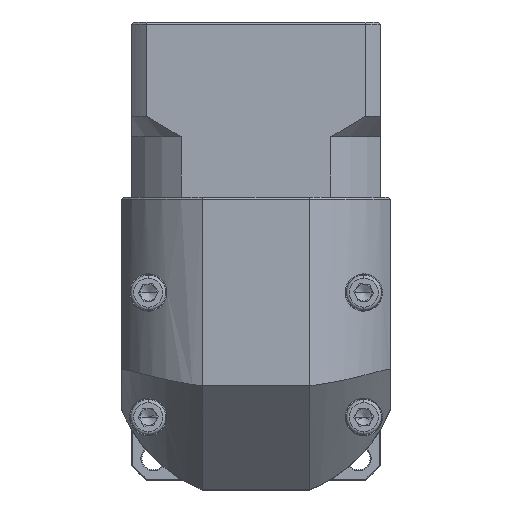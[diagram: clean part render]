
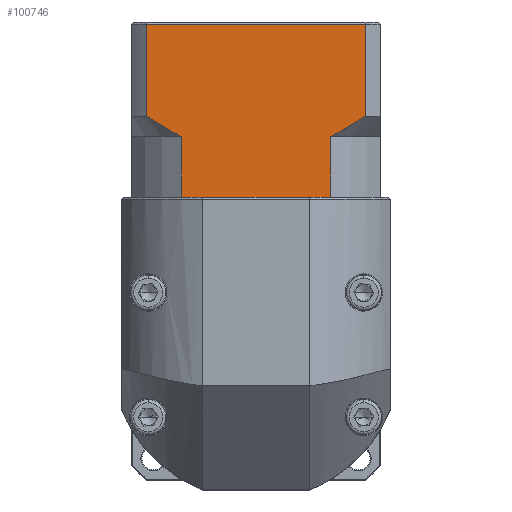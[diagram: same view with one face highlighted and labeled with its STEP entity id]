
A CAD part, top view. The second image highlights one B-rep face of the part: STEP entity #100746.
In plain terms, the highlighted planar face has unit normal (0, 0, 1).
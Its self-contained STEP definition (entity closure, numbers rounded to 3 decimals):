
#614 = VECTOR ( 'NONE', #58140, 1000. ) ;
#3505 = CARTESIAN_POINT ( 'NONE',  ( -76.952, 41.044, 46.008 ) ) ;
#4255 = CARTESIAN_POINT ( 'NONE',  ( -73.41, 55.544, 46.008 ) ) ;
#5313 = EDGE_CURVE ( 'NONE', #7495, #14558, #21952, .T. ) ;
#6507 = EDGE_CURVE ( 'NONE', #47653, #14558, #90700, .T. ) ;
#7495 = VERTEX_POINT ( 'NONE', #45702 ) ;
#8654 = DIRECTION ( 'NONE',  ( 0., 1., 0. ) ) ;
#10508 = VERTEX_POINT ( 'NONE', #38392 ) ;
#12014 = CARTESIAN_POINT ( 'NONE',  ( -64.98, 55.544, 46.008 ) ) ;
#13902 = ORIENTED_EDGE ( 'NONE', *, *, #57826, .T. ) ;
#13911 = DIRECTION ( 'NONE',  ( 0., 0., -1. ) ) ;
#14558 = VERTEX_POINT ( 'NONE', #50242 ) ;
#14918 = CARTESIAN_POINT ( 'NONE',  ( -28.924, 55.544, 46.008 ) ) ;
#15823 = VERTEX_POINT ( 'NONE', #86991 ) ;
#16475 = CARTESIAN_POINT ( 'NONE',  ( -64.98, 55.544, 46.008 ) ) ;
#17858 = VECTOR ( 'NONE', #41969, 1000. ) ;
#17923 = EDGE_CURVE ( 'NONE', #72946, #47653, #58922, .T. ) ;
#21149 = VERTEX_POINT ( 'NONE', #69451 ) ;
#21652 = CARTESIAN_POINT ( 'NONE',  ( -28.924, 55.544, 46.008 ) ) ;
#21952 = LINE ( 'NONE', #14918, #17858 ) ;
#22491 = ORIENTED_EDGE ( 'NONE', *, *, #56330, .F. ) ;
#25499 = B_SPLINE_CURVE_WITH_KNOTS ( 'NONE', 3,
 ( #62078, #87962, #34945, #53075, #96869, #61693 ),
 .UNSPECIFIED., .F., .F.,
 ( 4, 2, 4 ),
 ( 0.052, 0.057, 0.062 ),
 .UNSPECIFIED. ) ;
#27472 = CARTESIAN_POINT ( 'NONE',  ( -76.952, 41.044, 46.008 ) ) ;
#31822 = CARTESIAN_POINT ( 'NONE',  ( -73.41, 60.544, 46.008 ) ) ;
#31996 = VECTOR ( 'NONE', #90608, 1000. ) ;
#34945 = CARTESIAN_POINT ( 'NONE',  ( -70.671, 58.771, 46.008 ) ) ;
#36196 = EDGE_LOOP ( 'NONE', ( #85343, #108055, #22491, #13902, #36936, #73892, #80899, #100197, #95460, #63165 ) ) ;
#36936 = ORIENTED_EDGE ( 'NONE', *, *, #92618, .F. ) ;
#37709 = VECTOR ( 'NONE', #39133, 1000. ) ;
#38392 = CARTESIAN_POINT ( 'NONE',  ( -64.98, 41.044, 46.008 ) ) ;
#38736 = CARTESIAN_POINT ( 'NONE',  ( -26.043, 57.095, 46.008 ) ) ;
#39101 = CARTESIAN_POINT ( 'NONE',  ( -23.237, 58.769, 46.008 ) ) ;
#39133 = DIRECTION ( 'NONE',  ( 0., 1., 0. ) ) ;
#40101 = DIRECTION ( 'NONE',  ( 0., -1., 0. ) ) ;
#41969 = DIRECTION ( 'NONE',  ( 0., -1., 0. ) ) ;
#43105 = CARTESIAN_POINT ( 'NONE',  ( -29.915, 41.044, 46.008 ) ) ;
#45565 = EDGE_CURVE ( 'NONE', #7495, #21149, #104854, .T. ) ;
#45702 = CARTESIAN_POINT ( 'NONE',  ( -28.924, 55.544, 46.008 ) ) ;
#46301 = EDGE_CURVE ( 'NONE', #15823, #56881, #81922, .T. ) ;
#46879 = CARTESIAN_POINT ( 'NONE',  ( -21.857, 59.643, 46.008 ) ) ;
#47653 = VERTEX_POINT ( 'NONE', #43105 ) ;
#50242 = CARTESIAN_POINT ( 'NONE',  ( -28.924, 41.044, 46.008 ) ) ;
#53075 = CARTESIAN_POINT ( 'NONE',  ( -67.863, 57.096, 46.008 ) ) ;
#54693 = VECTOR ( 'NONE', #40101, 1000. ) ;
#56330 = EDGE_CURVE ( 'NONE', #86191, #56881, #84789, .T. ) ;
#56881 = VERTEX_POINT ( 'NONE', #66123 ) ;
#56951 = PLANE ( 'NONE',  #100751 ) ;
#57826 = EDGE_CURVE ( 'NONE', #86191, #76562, #25499, .T. ) ;
#58140 = DIRECTION ( 'NONE',  ( 1., 0., 0. ) ) ;
#58662 = EDGE_CURVE ( 'NONE', #15823, #21149, #87915, .T. ) ;
#58922 = LINE ( 'NONE', #3505, #614 ) ;
#59356 = CARTESIAN_POINT ( 'NONE',  ( -76.952, 82.744, 46.008 ) ) ;
#61693 = CARTESIAN_POINT ( 'NONE',  ( -64.98, 55.544, 46.008 ) ) ;
#62078 = CARTESIAN_POINT ( 'NONE',  ( -73.41, 60.544, 46.008 ) ) ;
#63165 = ORIENTED_EDGE ( 'NONE', *, *, #45565, .T. ) ;
#65338 = CARTESIAN_POINT ( 'NONE',  ( -20.495, 55.544, 46.008 ) ) ;
#65582 = CARTESIAN_POINT ( 'NONE',  ( -76.952, 41.044, 46.008 ) ) ;
#66046 = VECTOR ( 'NONE', #89755, 1000. ) ;
#66123 = CARTESIAN_POINT ( 'NONE',  ( -73.41, 82.744, 46.008 ) ) ;
#69451 = CARTESIAN_POINT ( 'NONE',  ( -20.495, 60.544, 46.008 ) ) ;
#72946 = VERTEX_POINT ( 'NONE', #76427 ) ;
#73892 = ORIENTED_EDGE ( 'NONE', *, *, #104573, .T. ) ;
#75558 = DIRECTION ( 'NONE',  ( 0., 1., 0. ) ) ;
#76427 = CARTESIAN_POINT ( 'NONE',  ( -63.989, 41.044, 46.008 ) ) ;
#76562 = VERTEX_POINT ( 'NONE', #12014 ) ;
#80899 = ORIENTED_EDGE ( 'NONE', *, *, #17923, .T. ) ;
#81444 = FACE_OUTER_BOUND ( 'NONE', #36196, .T. ) ;
#81922 = LINE ( 'NONE', #59356, #31996 ) ;
#83633 = CARTESIAN_POINT ( 'NONE',  ( -20.495, 60.544, 46.008 ) ) ;
#84789 = LINE ( 'NONE', #4255, #37709 ) ;
#85343 = ORIENTED_EDGE ( 'NONE', *, *, #58662, .F. ) ;
#86191 = VERTEX_POINT ( 'NONE', #31822 ) ;
#86991 = CARTESIAN_POINT ( 'NONE',  ( -20.495, 82.744, 46.008 ) ) ;
#87915 = LINE ( 'NONE', #65338, #54693 ) ;
#87962 = CARTESIAN_POINT ( 'NONE',  ( -72.05, 59.645, 46.008 ) ) ;
#89755 = DIRECTION ( 'NONE',  ( 1., 0., 0. ) ) ;
#90608 = DIRECTION ( 'NONE',  ( -1., 0., 0. ) ) ;
#90700 = LINE ( 'NONE', #65582, #108743 ) ;
#91367 = CARTESIAN_POINT ( 'NONE',  ( -27.468, 56.294, 46.008 ) ) ;
#92232 = DIRECTION ( 'NONE',  ( 1., 0., 0. ) ) ;
#92618 = EDGE_CURVE ( 'NONE', #10508, #76562, #110755, .T. ) ;
#95460 = ORIENTED_EDGE ( 'NONE', *, *, #5313, .F. ) ;
#96869 = CARTESIAN_POINT ( 'NONE',  ( -66.432, 56.292, 46.008 ) ) ;
#100197 = ORIENTED_EDGE ( 'NONE', *, *, #6507, .T. ) ;
#100746 = ADVANCED_FACE ( 'NONE', ( #81444 ), #56951, .F. ) ;
#100751 = AXIS2_PLACEMENT_3D ( 'NONE', #101853, #13911, #75558 ) ;
#101853 = CARTESIAN_POINT ( 'NONE',  ( -76.952, 83.244, 46.008 ) ) ;
#102383 = VECTOR ( 'NONE', #8654, 1000. ) ;
#104573 = EDGE_CURVE ( 'NONE', #10508, #72946, #106259, .T. ) ;
#104854 = B_SPLINE_CURVE_WITH_KNOTS ( 'NONE', 3,
 ( #21652, #91367, #38736, #39101, #46879, #83633 ),
 .UNSPECIFIED., .F., .F.,
 ( 4, 2, 4 ),
 ( 0.1, 0.104, 0.109 ),
 .UNSPECIFIED. ) ;
#106259 = LINE ( 'NONE', #27472, #66046 ) ;
#108055 = ORIENTED_EDGE ( 'NONE', *, *, #46301, .T. ) ;
#108743 = VECTOR ( 'NONE', #92232, 1000. ) ;
#110755 = LINE ( 'NONE', #16475, #102383 ) ;
